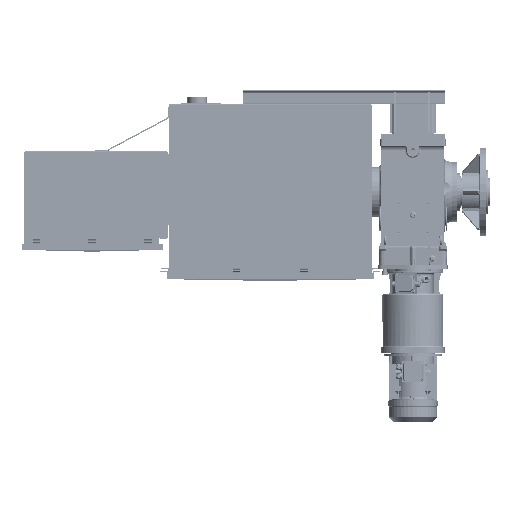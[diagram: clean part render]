
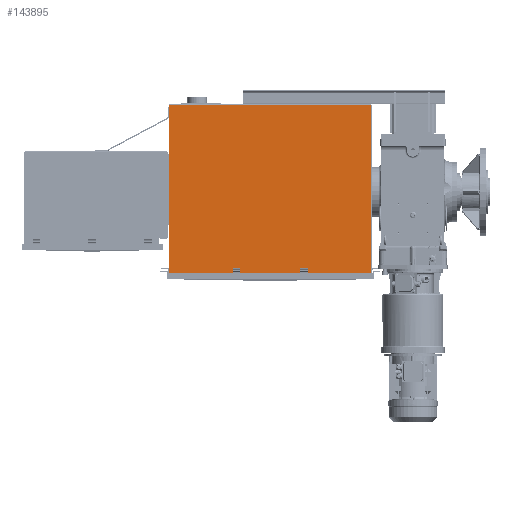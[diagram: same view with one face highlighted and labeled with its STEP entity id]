
A CAD part, top view. The second image highlights one B-rep face of the part: STEP entity #143895.
In plain terms, the highlighted planar face has unit normal (0, 0, 1).
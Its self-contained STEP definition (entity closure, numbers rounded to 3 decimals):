
#6288=FACE_BOUND('',#25984,.T.);
#6289=FACE_BOUND('',#25985,.T.);
#9894=PLANE('',#155139);
#17148=FACE_OUTER_BOUND('',#25983,.T.);
#25983=EDGE_LOOP('',(#118547,#118548,#118549,#118550,#118551,#118552,#118553,
#118554,#118555,#118556,#118557,#118558));
#25984=EDGE_LOOP('',(#118559,#118560,#118561,#118562));
#25985=EDGE_LOOP('',(#118563,#118564,#118565,#118566));
#29609=LINE('',#196060,#41078);
#29626=LINE('',#196105,#41095);
#29628=LINE('',#196109,#41097);
#29629=LINE('',#196111,#41098);
#29630=LINE('',#196120,#41099);
#29647=LINE('',#196165,#41116);
#29649=LINE('',#196169,#41118);
#29650=LINE('',#196171,#41119);
#36176=LINE('',#256311,#47645);
#36179=LINE('',#256317,#47648);
#36182=LINE('',#256324,#47651);
#36185=LINE('',#256328,#47654);
#36191=LINE('',#256340,#47660);
#36193=LINE('',#256344,#47662);
#36195=LINE('',#256347,#47664);
#36196=LINE('',#256350,#47665);
#36197=LINE('',#256352,#47666);
#36198=LINE('',#256353,#47667);
#36199=LINE('',#256355,#47668);
#36200=LINE('',#256356,#47669);
#41078=VECTOR('',#160276,40.);
#41095=VECTOR('',#160319,40.);
#41097=VECTOR('',#160323,40.);
#41098=VECTOR('',#160326,40.);
#41099=VECTOR('',#160335,40.);
#41116=VECTOR('',#160378,40.);
#41118=VECTOR('',#160382,40.);
#41119=VECTOR('',#160385,40.);
#47645=VECTOR('',#184163,945.);
#47648=VECTOR('',#184168,0.992);
#47651=VECTOR('',#184173,2.976);
#47654=VECTOR('',#184178,1.984);
#47660=VECTOR('',#184188,2.976);
#47662=VECTOR('',#184192,0.992);
#47664=VECTOR('',#184196,1.984);
#47665=VECTOR('',#184199,51.016);
#47666=VECTOR('',#184200,894.016);
#47667=VECTOR('',#184201,1051.);
#47668=VECTOR('',#184202,894.016);
#47669=VECTOR('',#184203,51.016);
#57153=VERTEX_POINT('',#196058);
#57154=VERTEX_POINT('',#196059);
#57169=VERTEX_POINT('',#196103);
#57170=VERTEX_POINT('',#196107);
#57173=VERTEX_POINT('',#196118);
#57174=VERTEX_POINT('',#196119);
#57189=VERTEX_POINT('',#196163);
#57190=VERTEX_POINT('',#196167);
#65928=VERTEX_POINT('',#256011);
#66020=VERTEX_POINT('',#256303);
#66021=VERTEX_POINT('',#256307);
#66023=VERTEX_POINT('',#256315);
#66025=VERTEX_POINT('',#256321);
#66026=VERTEX_POINT('',#256323);
#66029=VERTEX_POINT('',#256337);
#66030=VERTEX_POINT('',#256339);
#66031=VERTEX_POINT('',#256343);
#66032=VERTEX_POINT('',#256349);
#66033=VERTEX_POINT('',#256351);
#66034=VERTEX_POINT('',#256354);
#70623=EDGE_CURVE('',#57153,#57154,#29609,.T.);
#70646=EDGE_CURVE('',#57154,#57169,#29626,.T.);
#70648=EDGE_CURVE('',#57170,#57153,#29628,.T.);
#70649=EDGE_CURVE('',#57169,#57170,#29629,.T.);
#70652=EDGE_CURVE('',#57173,#57174,#29630,.T.);
#70675=EDGE_CURVE('',#57174,#57189,#29647,.T.);
#70677=EDGE_CURVE('',#57190,#57173,#29649,.T.);
#70678=EDGE_CURVE('',#57189,#57190,#29650,.T.);
#84109=EDGE_CURVE('',#66020,#66021,#36176,.T.);
#84112=EDGE_CURVE('',#66021,#66023,#36179,.T.);
#84115=EDGE_CURVE('',#66026,#66025,#36182,.T.);
#84118=EDGE_CURVE('',#66023,#66026,#36185,.T.);
#84124=EDGE_CURVE('',#66030,#66029,#36191,.T.);
#84126=EDGE_CURVE('',#66031,#66020,#36193,.T.);
#84128=EDGE_CURVE('',#66029,#66031,#36195,.T.);
#84129=EDGE_CURVE('',#66032,#66025,#36196,.T.);
#84130=EDGE_CURVE('',#66033,#66032,#36197,.T.);
#84131=EDGE_CURVE('',#66033,#65928,#36198,.T.);
#84132=EDGE_CURVE('',#66034,#65928,#36199,.T.);
#84133=EDGE_CURVE('',#66030,#66034,#36200,.T.);
#118547=ORIENTED_EDGE('',*,*,#84115,.T.);
#118548=ORIENTED_EDGE('',*,*,#84129,.F.);
#118549=ORIENTED_EDGE('',*,*,#84130,.F.);
#118550=ORIENTED_EDGE('',*,*,#84131,.T.);
#118551=ORIENTED_EDGE('',*,*,#84132,.F.);
#118552=ORIENTED_EDGE('',*,*,#84133,.F.);
#118553=ORIENTED_EDGE('',*,*,#84124,.T.);
#118554=ORIENTED_EDGE('',*,*,#84128,.T.);
#118555=ORIENTED_EDGE('',*,*,#84126,.T.);
#118556=ORIENTED_EDGE('',*,*,#84109,.T.);
#118557=ORIENTED_EDGE('',*,*,#84112,.T.);
#118558=ORIENTED_EDGE('',*,*,#84118,.T.);
#118559=ORIENTED_EDGE('',*,*,#70623,.T.);
#118560=ORIENTED_EDGE('',*,*,#70646,.T.);
#118561=ORIENTED_EDGE('',*,*,#70649,.T.);
#118562=ORIENTED_EDGE('',*,*,#70648,.T.);
#118563=ORIENTED_EDGE('',*,*,#70652,.T.);
#118564=ORIENTED_EDGE('',*,*,#70675,.T.);
#118565=ORIENTED_EDGE('',*,*,#70678,.T.);
#118566=ORIENTED_EDGE('',*,*,#70677,.T.);
#143895=ADVANCED_FACE('',(#17148,#6288,#6289),#9894,.F.);
#155139=AXIS2_PLACEMENT_3D('',#256348,#184197,#184198);
#160276=DIRECTION('',(0.,1.,0.));
#160319=DIRECTION('',(1.,0.,0.));
#160323=DIRECTION('',(-1.,0.,0.));
#160326=DIRECTION('',(0.,-1.,0.));
#160335=DIRECTION('',(0.,1.,0.));
#160378=DIRECTION('',(1.,0.,0.));
#160382=DIRECTION('',(-1.,0.,0.));
#160385=DIRECTION('',(0.,-1.,0.));
#184163=DIRECTION('',(1.,0.,0.));
#184168=DIRECTION('',(0.,1.,0.));
#184173=DIRECTION('',(0.,-1.,0.));
#184178=DIRECTION('',(1.,0.,0.));
#184188=DIRECTION('',(0.,1.,0.));
#184192=DIRECTION('',(0.,-1.,0.));
#184196=DIRECTION('',(1.,0.,0.));
#184197=DIRECTION('center_axis',(0.,0.,
-1.));
#184198=DIRECTION('ref_axis',(1.,0.,0.));
#184199=DIRECTION('',(-1.,0.,0.));
#184200=DIRECTION('',(0.,-1.,0.));
#184201=DIRECTION('',(-1.,0.,0.));
#184202=DIRECTION('',(0.,1.,0.));
#184203=DIRECTION('',(-1.,0.,0.));
#196058=CARTESIAN_POINT('',(-1065.982,-646.817,872.238));
#196059=CARTESIAN_POINT('',(-1065.982,-606.817,872.238));
#196060=CARTESIAN_POINT('',(-1065.982,-409.737,872.238));
#196103=CARTESIAN_POINT('',(-1025.982,-606.817,872.238));
#196105=CARTESIAN_POINT('',(-958.482,-606.817,872.238));
#196107=CARTESIAN_POINT('',(-1025.982,-646.817,872.238));
#196109=CARTESIAN_POINT('',(-958.482,-646.817,872.238));
#196111=CARTESIAN_POINT('',(-1025.982,-409.737,872.238));
#196118=CARTESIAN_POINT('',(-715.982,-646.817,872.238));
#196119=CARTESIAN_POINT('',(-715.982,-606.817,872.238));
#196120=CARTESIAN_POINT('',(-715.982,-409.737,872.238));
#196163=CARTESIAN_POINT('',(-675.982,-606.817,872.238));
#196165=CARTESIAN_POINT('',(-783.482,-606.817,872.238));
#196167=CARTESIAN_POINT('',(-675.982,-646.817,872.238));
#196169=CARTESIAN_POINT('',(-783.482,-646.817,872.238));
#196171=CARTESIAN_POINT('',(-675.982,-409.737,872.238));
#256011=CARTESIAN_POINT('',(-1396.482,241.483,872.238));
#256303=CARTESIAN_POINT('',(-1343.482,-650.55,872.238));
#256307=CARTESIAN_POINT('',(-398.482,-650.55,872.238));
#256311=CARTESIAN_POINT('',(-634.732,-650.55,872.238));
#256315=CARTESIAN_POINT('',(-398.482,-649.558,872.238));
#256317=CARTESIAN_POINT('',(-398.482,-425.17,872.238));
#256321=CARTESIAN_POINT('',(-396.499,-652.534,872.238));
#256323=CARTESIAN_POINT('',(-396.499,-649.558,872.238));
#256324=CARTESIAN_POINT('',(-396.499,-426.658,872.238));
#256328=CARTESIAN_POINT('',(-633.74,-649.558,872.238));
#256337=CARTESIAN_POINT('',(-1345.466,-649.558,872.238));
#256339=CARTESIAN_POINT('',(-1345.466,-652.534,872.238));
#256340=CARTESIAN_POINT('',(-1345.466,-425.17,872.238));
#256343=CARTESIAN_POINT('',(-1343.482,-649.558,872.238));
#256344=CARTESIAN_POINT('',(-1343.482,-426.658,872.238));
#256347=CARTESIAN_POINT('',(-1107.232,-649.558,872.238));
#256348=CARTESIAN_POINT('Origin',(-870.982,-200.782,872.238));
#256349=CARTESIAN_POINT('',(-345.482,-652.534,872.238));
#256350=CARTESIAN_POINT('',(-345.482,-652.534,872.238));
#256351=CARTESIAN_POINT('',(-345.482,241.483,872.238));
#256352=CARTESIAN_POINT('',(-345.482,241.483,872.238));
#256353=CARTESIAN_POINT('',(-870.982,241.483,872.238));
#256354=CARTESIAN_POINT('',(-1396.482,-652.534,872.238));
#256355=CARTESIAN_POINT('',(-1396.482,250.457,872.238));
#256356=CARTESIAN_POINT('',(-345.482,-652.534,872.238));
